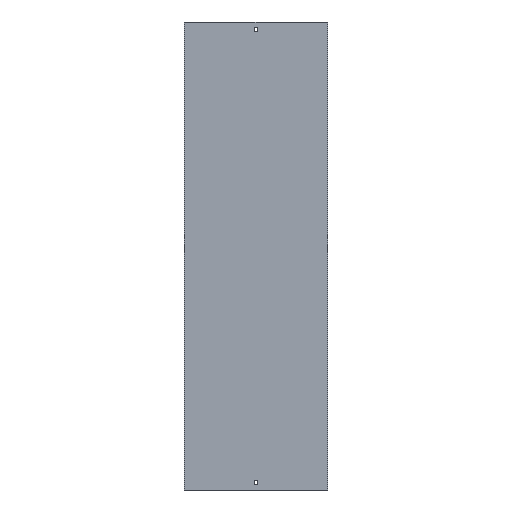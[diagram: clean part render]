
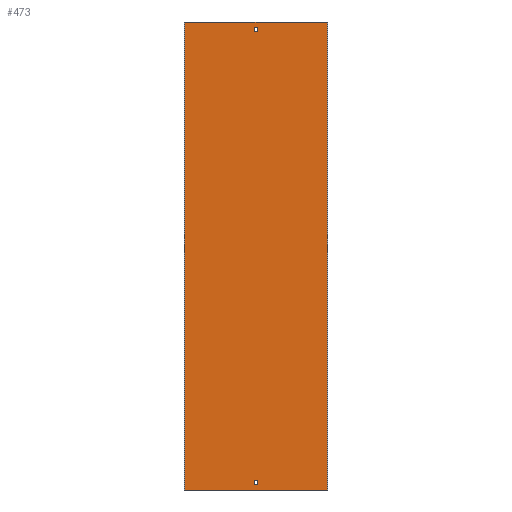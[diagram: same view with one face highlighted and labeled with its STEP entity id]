
A CAD part, front view. The second image highlights one B-rep face of the part: STEP entity #473.
In plain terms, the highlighted planar face has unit normal (0, -1, 0).
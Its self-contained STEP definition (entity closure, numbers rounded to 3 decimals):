
#6 = FACE_BOUND ( 'NONE', #273, .T. ) ;
#8 = AXIS2_PLACEMENT_3D ( 'NONE', #419, #229, #513 ) ;
#10 = EDGE_CURVE ( 'NONE', #267, #133, #210, .T. ) ;
#12 = DIRECTION ( 'NONE',  ( 1., 0., 0. ) ) ;
#17 = VECTOR ( 'NONE', #492, 1000. ) ;
#22 = EDGE_CURVE ( 'NONE', #443, #215, #482, .T. ) ;
#27 = VECTOR ( 'NONE', #444, 1000. ) ;
#28 = CARTESIAN_POINT ( 'NONE',  ( -3.25, -1.5, 479. ) ) ;
#30 = CARTESIAN_POINT ( 'NONE',  ( -3.25, -1.5, 500. ) ) ;
#40 = VECTOR ( 'NONE', #494, 1000. ) ;
#52 = VERTEX_POINT ( 'NONE', #79 ) ;
#55 = EDGE_CURVE ( 'NONE', #171, #427, #86, .T. ) ;
#58 = CARTESIAN_POINT ( 'NONE',  ( -3.25, -1.5, 488. ) ) ;
#67 = ORIENTED_EDGE ( 'NONE', *, *, #55, .F. ) ;
#71 = VECTOR ( 'NONE', #12, 1000. ) ;
#79 = CARTESIAN_POINT ( 'NONE',  ( 3.25, -1.5, 479. ) ) ;
#86 = LINE ( 'NONE', #446, #17 ) ;
#88 = DIRECTION ( 'NONE',  ( -1., 0., 0. ) ) ;
#91 = LINE ( 'NONE', #266, #459 ) ;
#96 = FACE_OUTER_BOUND ( 'NONE', #176, .T. ) ;
#101 = VECTOR ( 'NONE', #395, 1000. ) ;
#113 = CARTESIAN_POINT ( 'NONE',  ( 3.25, -1.5, -488. ) ) ;
#125 = CARTESIAN_POINT ( 'NONE',  ( -3.25, -1.5, -479. ) ) ;
#133 = VERTEX_POINT ( 'NONE', #113 ) ;
#138 = ORIENTED_EDGE ( 'NONE', *, *, #190, .T. ) ;
#146 = DIRECTION ( 'NONE',  ( -1., 0., 0. ) ) ;
#150 = VECTOR ( 'NONE', #304, 1000. ) ;
#157 = VECTOR ( 'NONE', #326, 1000. ) ;
#164 = DIRECTION ( 'NONE',  ( 0., 0., 1. ) ) ;
#171 = VERTEX_POINT ( 'NONE', #521 ) ;
#176 = EDGE_LOOP ( 'NONE', ( #67, #196, #539, #282 ) ) ;
#181 = ORIENTED_EDGE ( 'NONE', *, *, #555, .T. ) ;
#190 = EDGE_CURVE ( 'NONE', #420, #315, #564, .T. ) ;
#193 = ORIENTED_EDGE ( 'NONE', *, *, #10, .T. ) ;
#196 = ORIENTED_EDGE ( 'NONE', *, *, #500, .F. ) ;
#210 = LINE ( 'NONE', #572, #286 ) ;
#214 = CARTESIAN_POINT ( 'NONE',  ( 3.25, -1.5, 500. ) ) ;
#215 = VERTEX_POINT ( 'NONE', #28 ) ;
#225 = EDGE_LOOP ( 'NONE', ( #487, #138, #181, #193 ) ) ;
#229 = DIRECTION ( 'NONE',  ( 0., -1., 0. ) ) ;
#242 = CARTESIAN_POINT ( 'NONE',  ( -153.5, -1.5, -479. ) ) ;
#243 = CARTESIAN_POINT ( 'NONE',  ( 3.25, -1.5, -479. ) ) ;
#250 = EDGE_CURVE ( 'NONE', #585, #427, #288, .T. ) ;
#251 = VECTOR ( 'NONE', #164, 1000. ) ;
#255 = EDGE_CURVE ( 'NONE', #52, #342, #256, .T. ) ;
#256 = LINE ( 'NONE', #214, #485 ) ;
#266 = CARTESIAN_POINT ( 'NONE',  ( -153.5, -1.5, 488. ) ) ;
#267 = VERTEX_POINT ( 'NONE', #243 ) ;
#272 = LINE ( 'NONE', #465, #157 ) ;
#273 = EDGE_LOOP ( 'NONE', ( #576, #553, #329, #542 ) ) ;
#282 = ORIENTED_EDGE ( 'NONE', *, *, #250, .T. ) ;
#283 = EDGE_CURVE ( 'NONE', #342, #443, #91, .T. ) ;
#286 = VECTOR ( 'NONE', #295, 1000. ) ;
#288 = LINE ( 'NONE', #571, #150 ) ;
#295 = DIRECTION ( 'NONE',  ( 0., 0., -1. ) ) ;
#304 = DIRECTION ( 'NONE',  ( 0., 0., -1. ) ) ;
#307 = CARTESIAN_POINT ( 'NONE',  ( 3.25, -1.5, 488. ) ) ;
#315 = VERTEX_POINT ( 'NONE', #125 ) ;
#326 = DIRECTION ( 'NONE',  ( 0., 0., -1. ) ) ;
#329 = ORIENTED_EDGE ( 'NONE', *, *, #255, .F. ) ;
#340 = LINE ( 'NONE', #515, #101 ) ;
#342 = VERTEX_POINT ( 'NONE', #307 ) ;
#362 = CARTESIAN_POINT ( 'NONE',  ( -153.5, -1.5, 500. ) ) ;
#372 = CARTESIAN_POINT ( 'NONE',  ( -152., -1.5, -500. ) ) ;
#374 = LINE ( 'NONE', #561, #457 ) ;
#375 = EDGE_CURVE ( 'NONE', #416, #585, #403, .T. ) ;
#379 = CARTESIAN_POINT ( 'NONE',  ( 152., -1.5, 500. ) ) ;
#395 = DIRECTION ( 'NONE',  ( 1., 0., 0. ) ) ;
#401 = DIRECTION ( 'NONE',  ( 0., 0., 1. ) ) ;
#403 = LINE ( 'NONE', #362, #40 ) ;
#416 = VERTEX_POINT ( 'NONE', #379 ) ;
#419 = CARTESIAN_POINT ( 'NONE',  ( -153.5, -1.5, 500. ) ) ;
#420 = VERTEX_POINT ( 'NONE', #589 ) ;
#427 = VERTEX_POINT ( 'NONE', #372 ) ;
#435 = CARTESIAN_POINT ( 'NONE',  ( -3.25, -1.5, 500. ) ) ;
#443 = VERTEX_POINT ( 'NONE', #58 ) ;
#444 = DIRECTION ( 'NONE',  ( 0., 0., -1. ) ) ;
#446 = CARTESIAN_POINT ( 'NONE',  ( -153.5, -1.5, -500. ) ) ;
#457 = VECTOR ( 'NONE', #146, 1000. ) ;
#459 = VECTOR ( 'NONE', #88, 1000. ) ;
#465 = CARTESIAN_POINT ( 'NONE',  ( 152., -1.5, 500. ) ) ;
#473 = ADVANCED_FACE ( 'NONE', ( #6, #96, #549 ), #586, .T. ) ;
#482 = LINE ( 'NONE', #30, #27 ) ;
#484 = EDGE_CURVE ( 'NONE', #133, #420, #374, .T. ) ;
#485 = VECTOR ( 'NONE', #401, 1000. ) ;
#487 = ORIENTED_EDGE ( 'NONE', *, *, #484, .T. ) ;
#492 = DIRECTION ( 'NONE',  ( -1., 0., 0. ) ) ;
#494 = DIRECTION ( 'NONE',  ( -1., 0., 0. ) ) ;
#500 = EDGE_CURVE ( 'NONE', #416, #171, #272, .T. ) ;
#513 = DIRECTION ( 'NONE',  ( 0., 0., -1. ) ) ;
#515 = CARTESIAN_POINT ( 'NONE',  ( -153.5, -1.5, 479. ) ) ;
#519 = LINE ( 'NONE', #242, #71 ) ;
#521 = CARTESIAN_POINT ( 'NONE',  ( 152., -1.5, -500. ) ) ;
#533 = CARTESIAN_POINT ( 'NONE',  ( -152., -1.5, 500. ) ) ;
#539 = ORIENTED_EDGE ( 'NONE', *, *, #375, .T. ) ;
#542 = ORIENTED_EDGE ( 'NONE', *, *, #573, .F. ) ;
#549 = FACE_BOUND ( 'NONE', #225, .T. ) ;
#553 = ORIENTED_EDGE ( 'NONE', *, *, #283, .F. ) ;
#555 = EDGE_CURVE ( 'NONE', #315, #267, #519, .T. ) ;
#561 = CARTESIAN_POINT ( 'NONE',  ( -153.5, -1.5, -488. ) ) ;
#564 = LINE ( 'NONE', #435, #251 ) ;
#571 = CARTESIAN_POINT ( 'NONE',  ( -152., -1.5, 500. ) ) ;
#572 = CARTESIAN_POINT ( 'NONE',  ( 3.25, -1.5, 500. ) ) ;
#573 = EDGE_CURVE ( 'NONE', #215, #52, #340, .T. ) ;
#576 = ORIENTED_EDGE ( 'NONE', *, *, #22, .F. ) ;
#585 = VERTEX_POINT ( 'NONE', #533 ) ;
#586 = PLANE ( 'NONE',  #8 ) ;
#589 = CARTESIAN_POINT ( 'NONE',  ( -3.25, -1.5, -488. ) ) ;
